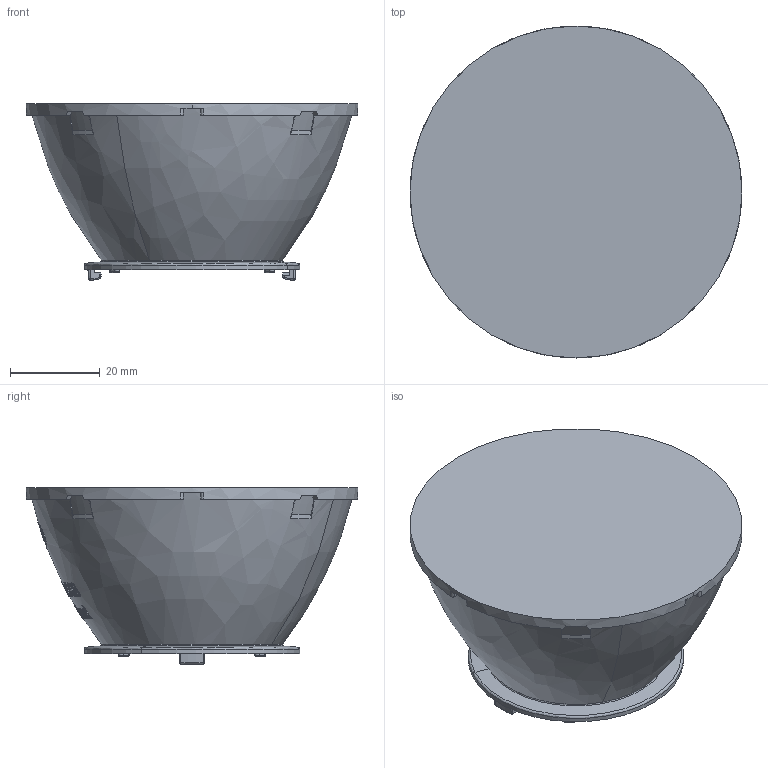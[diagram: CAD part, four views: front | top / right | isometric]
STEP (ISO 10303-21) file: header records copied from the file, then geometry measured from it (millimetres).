
FILE_DESCRIPTION(('CAx-IF Rec.Pracs.---Model Styling and Organization---1.2---2011-12-15','CAx-IF Rec.Pracs.---Geometric and Assembly Validation Properties---4.3---2015-07-16','CAx-IF Rec.Pracs.---Representation and Presentation of Product Manufacturing Information (PMI)---4.0.3---2016-08-25'),'2;1');
FILE_NAME('022YJ08Y04.stp','2022-05-06T07:29:05+02:00',(''),(''),'STEP Interface 4.5 by CT CoreTechnologie','3D_Evolution4.5 by CT CoreTechnologie','');
FILE_SCHEMA(('AP203_CONFIGURATION_CONTROLLED_3D_DESIGN_OF_MECHANICAL_PARTS_AND_ASSEMBLIES_MIM_LF'));
Length unit declared in the file: millimetre
Products named in the file (1): ÃŠÃ¤ÃˆÃ«1
Bounding box: 74 x 74 x 39.25 mm (x, y, z)
Volume: 103763.2 mm3; surface area: 14511.8 mm2
Topology: 1 solids, 1 shells, 370 faces, 931 edges, 607 vertices
Faces by surface type: plane 169, bspline 151, cylinder 50
Entity records: 64698 total; most frequent: CARTESIAN_POINT 19772, PROPERTY_DEFINITION 5976, SHAPE_REPRESENTATION 2989, SHAPE_DEFINITION_REPRESENTATION 2989, INTEGER_REPRESENTATION_ITEM 2988, REPRESENTATION 2988, SHAPE_ASPECT 2988, ID_ATTRIBUTE 2988
